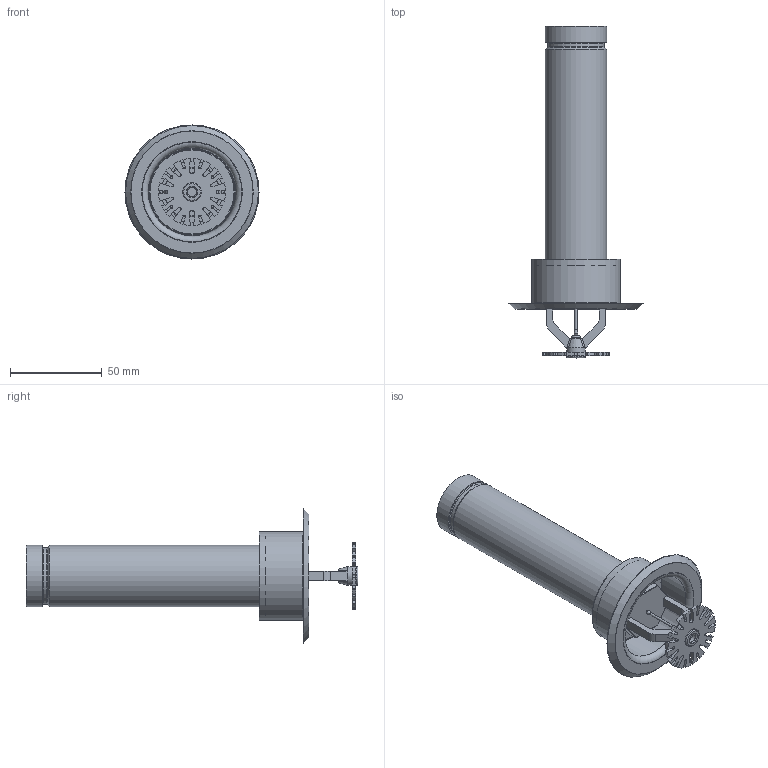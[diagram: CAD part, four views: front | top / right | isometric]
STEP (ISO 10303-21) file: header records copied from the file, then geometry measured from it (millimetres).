
FILE_DESCRIPTION(/* description */ ('VIC SPRINKLER V3613 K5.6 DRY RECESSED PENDENT STANDARD RESPONSE (IGS)'),/* implementation_level */ '2;1');
FILE_NAME(/* name */ 'C:\Files for Export\step\Victaulic_FP-Sprinkler_V3613_DRY_SR_Recessed Pendent (IGS)\Victaulic_FP-Sprinkler_V3613_DRY_SR_Recessed Pendent (IGS)_1 (25).stp',/* time_stamp */ '2024-09-24T07:42:23+02:00',/* author */ ('VJadhav'),/* organization */ ('Victaulic'),/* preprocessor_version */ 'ST-DEVELOPER v18',/* originating_system */ 'Autodesk Inventor 2020',/* authorisation */ '');
FILE_SCHEMA (('AUTOMOTIVE_DESIGN { 1 0 10303 214 3 1 1 }'));
Length unit declared in the file: inch
Products named in the file (1): V3613_REC-01.0
Bounding box: 73.03 x 180.66 x 73.03 mm (x, y, z)
Volume: 54036.6 mm3; surface area: 48816.3 mm2
Topology: 2 solids, 3 shells, 246 faces, 665 edges, 430 vertices
Faces by surface type: plane 113, cylinder 91, sphere 12, cone 11, bspline 10, torus 9
Full cylindrical faces by diameter (mm): 1.27 x1, 5.08 x2, 10.16 x2, 20.93 x2, 26.645 x1, 26.67 x1, 30.861 x1, 33.401 x2, 47.911 x2, 48.419 x1
Entity records: 8390 total; most frequent: CARTESIAN_POINT 1744, DIRECTION 1380, ORIENTED_EDGE 1320, EDGE_CURVE 660, AXIS2_PLACEMENT_3D 514, VERTEX_POINT 430, LINE 352, VECTOR 352
